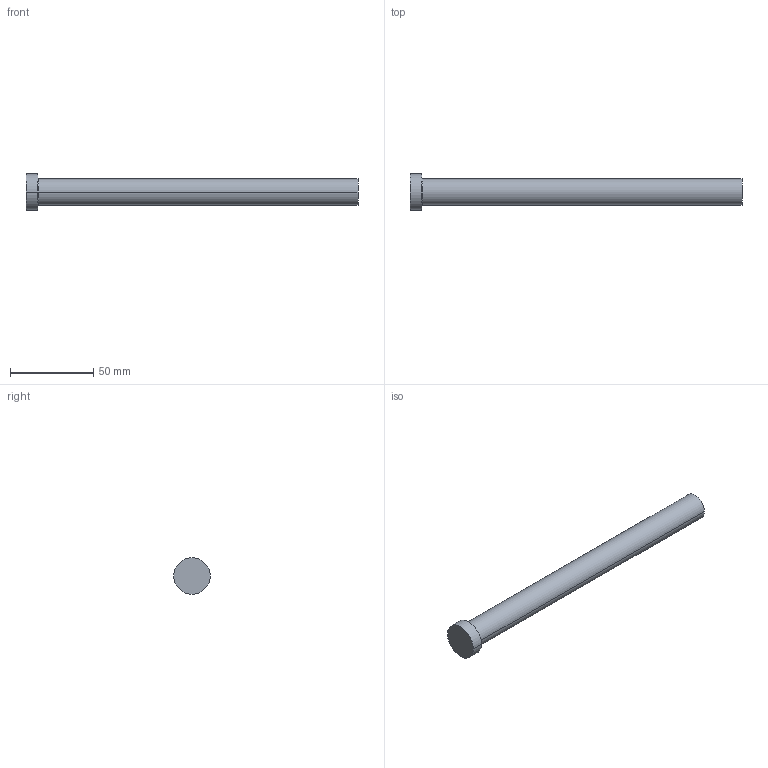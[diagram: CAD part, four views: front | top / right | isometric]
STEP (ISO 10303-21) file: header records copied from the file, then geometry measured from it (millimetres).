
FILE_DESCRIPTION (( 'STEP AP214' ), '1' );
FILE_NAME ('A-16x200.STEP', '2020-05-29T16:18:57', ( 'August' ), ( '' ), 'SwSTEP 2.0', 'SolidWorks 2018', '' );
FILE_SCHEMA (( 'AUTOMOTIVE_DESIGN' ));
Length unit declared in the file: millimetre
Products named in the file (1): A-16x200
Bounding box: 200 x 22 x 22 mm (x, y, z)
Volume: 41472.9 mm3; surface area: 10928.3 mm2
Topology: 1 solids, 1 shells, 9 faces, 16 edges, 10 vertices
Faces by surface type: cylinder 4, plane 3, torus 2
Entity records: 260 total; most frequent: DIRECTION 48, CARTESIAN_POINT 36, ORIENTED_EDGE 32, AXIS2_PLACEMENT_3D 22, EDGE_CURVE 16, CIRCLE 12, VERTEX_POINT 10, EDGE_LOOP 10
